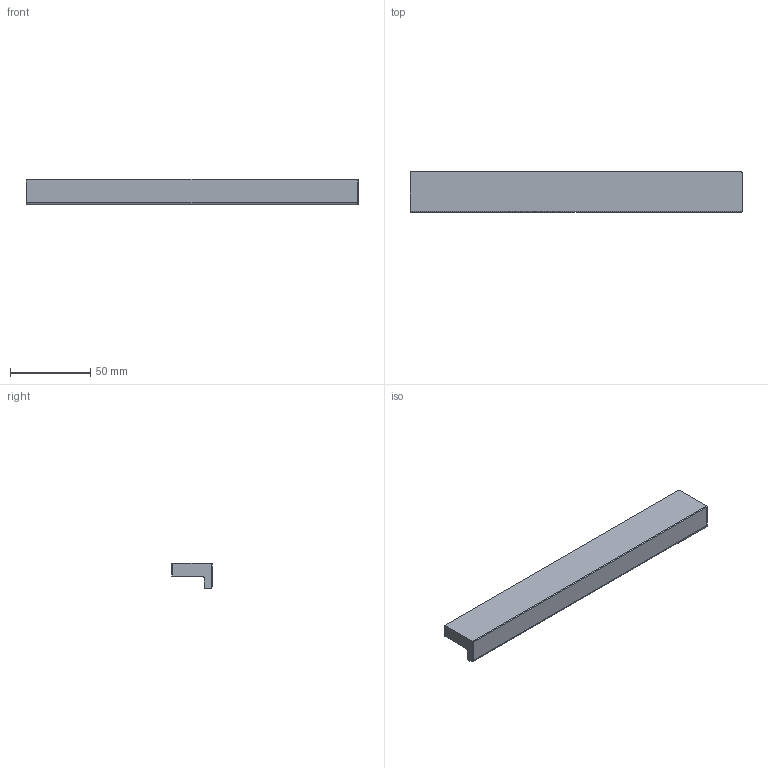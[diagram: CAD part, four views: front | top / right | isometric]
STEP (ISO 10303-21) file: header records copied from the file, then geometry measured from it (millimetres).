
FILE_DESCRIPTION( ( 'STEP AP214' ), '1' );
FILE_NAME( 'C:/Users/kulkarni/Desktop/Apurva/2015/Prodecor_2016/Cadfiles/same as files/rovigo/9204024.stp', ' ', ( ' ' ), ( ' ' ), 'PSStep 15.0.47', 'PARTsolutions', ' ' );
FILE_SCHEMA( ( 'AUTOMOTIVE_DESIGN { 1 0 10303 214 1 1 1 1 }' ) );
Length unit declared in the file: millimetre
Products named in the file (1): _9204024
Bounding box: 207 x 25 x 16 mm (x, y, z)
Volume: 49259.6 mm3; surface area: 17293.8 mm2
Topology: 1 solids, 1 shells, 20 faces, 46 edges, 30 vertices
Faces by surface type: plane 10, cylinder 10
Full cylindrical faces by diameter (mm): 4 x2
Entity records: 746 total; most frequent: CARTESIAN_POINT 109, DIRECTION 100, ORIENTED_EDGE 88, EDGE_CURVE 44, AXIS2_PLACEMENT_3D 37, VERTEX_POINT 30, LINE 26, VECTOR 26
